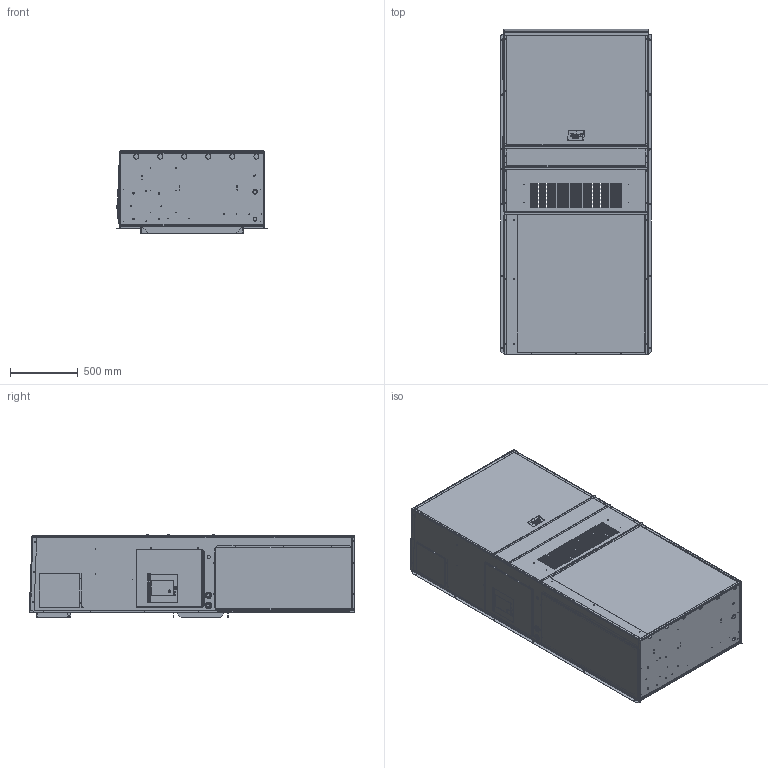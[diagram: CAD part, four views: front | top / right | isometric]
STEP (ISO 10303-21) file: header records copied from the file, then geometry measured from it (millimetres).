
FILE_DESCRIPTION (( 'STEP AP203' ), '1' );
FILE_NAME ('STEP_1500.STEP', '2016-06-29T14:59:03', ( 'BMC' ), ( 'Bard Manufacturing Co., Inc.' ), 'SwSTEP 2.0', 'SolidWorks 2016', '' );
FILE_SCHEMA (( 'CONFIG_CONTROL_DESIGN' ));
Products named in the file (1): STEP_1500
Bounding box: 1115.67 x 2410.46 x 612.07 mm (x, y, z)
Volume: 13549830.7 mm3; surface area: 19949093.1 mm2
Topology: 44 solids, 44 shells, 2900 faces, 8027 edges, 5253 vertices
Faces by surface type: plane 1534, cylinder 962, bspline 387, cone 9, torus 8
Entity records: 109644 total; most frequent: CARTESIAN_POINT 34394, ORIENTED_EDGE 16032, DIRECTION 14860, EDGE_CURVE 8016, VERTEX_POINT 5253, AXIS2_PLACEMENT_3D 4981, VECTOR 4898, LINE 4898
